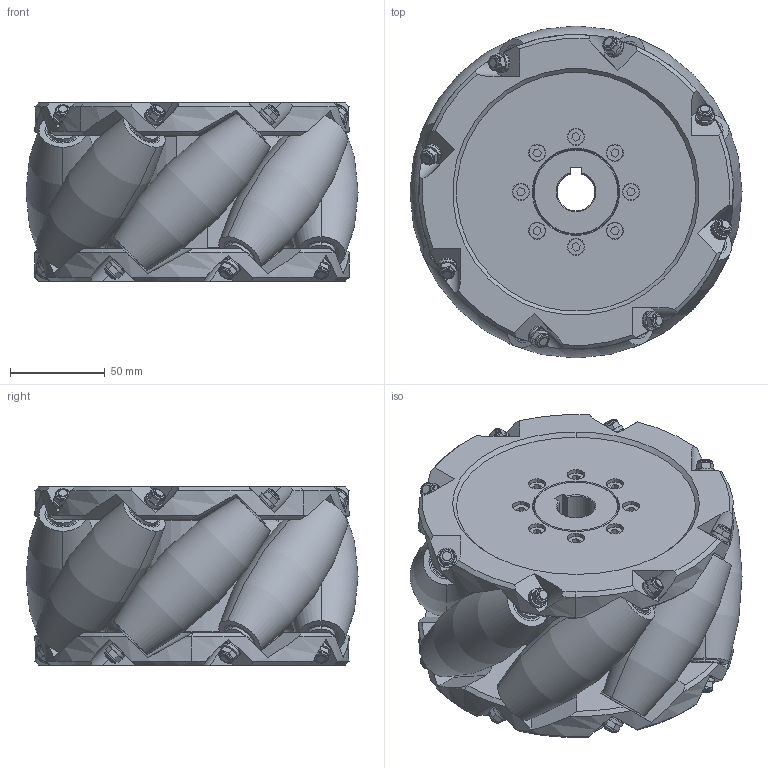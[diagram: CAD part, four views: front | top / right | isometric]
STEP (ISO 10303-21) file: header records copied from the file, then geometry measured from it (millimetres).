
FILE_DESCRIPTION (( 'STEP AP214' ), '1' );
FILE_NAME ('175MM45僅8煦陬謫軞蚾.STEP', '2017-06-14T11:58:19', ( 'nss000' ), ( 'Microsoft' ), 'SwSTEP 2.0', 'SolidWorks 2016', '' );
FILE_SCHEMA (( 'AUTOMOTIVE_DESIGN' ));
Length unit declared in the file: millimetre
Products named in the file (17): 175MM45僅8煦陬謫粣; 175MM45僅8煦苤謫郪磁; F6-14M; 轴承挡圈; 中间挡圈; NKI 6-16; 菜え; 175MM45僅8煦苤謫; 175MM45僅8煦謫え-酘2; 175MM45僅8煦謫え-酘; 175MM45僅8煦陬謫笢陑璃; 嫖粣癹弇菜え; M5粟銅菜; 滅侂蹟譫M5; 戚芛蹟佪M5; 175MM45僅8煦陬謫軞蚾; す瑩
Assembly tree (102 placements, depth 3):
  175MM45僅8煦陬謫軞蚾
    戚芛蹟佪M5  x16
    滅侂蹟譫M5  x16
    M5粟銅菜  x16
    嫖粣癹弇菜え  x16
    175MM45僅8煦陬謫笢陑璃
    175MM45僅8煦謫え-酘
    175MM45僅8煦謫え-酘2
    175MM45僅8煦苤謫郪磁  x8
      175MM45僅8煦苤謫
      菜え
      NKI 6-16
      中间挡圈
      轴承挡圈
      F6-14M
    175MM45僅8煦陬謫粣  x8
    す瑩  x8
Bounding box: 175 x 175 x 94 mm (x, y, z)
Volume: 1427109.9 mm3; surface area: 474246.7 mm2
Topology: 179 solids, 179 shells, 2729 faces, 5997 edges, 3758 vertices
Faces by surface type: cylinder 1119, plane 879, cone 427, torus 304
Entity records: 20862 total; most frequent: CARTESIAN_POINT 4054, DIRECTION 3488, ORIENTED_EDGE 3090, EDGE_CURVE 1545, AXIS2_PLACEMENT_3D 1439, VERTEX_POINT 1005, EDGE_LOOP 756, CIRCLE 713
